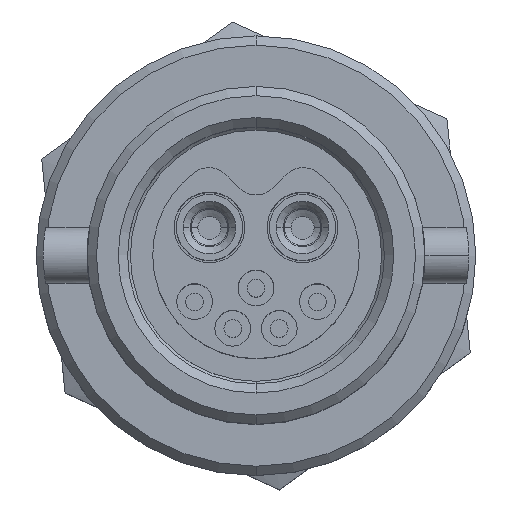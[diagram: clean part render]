
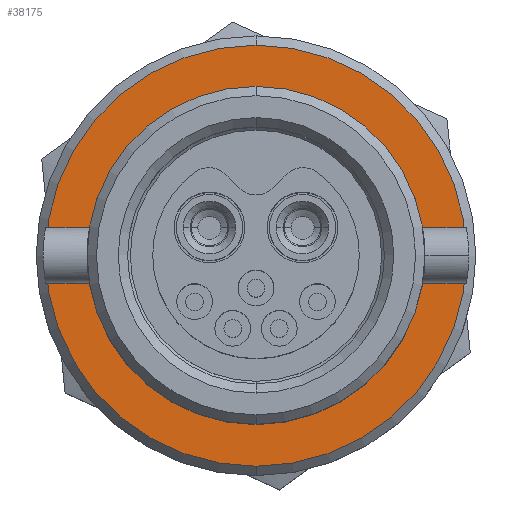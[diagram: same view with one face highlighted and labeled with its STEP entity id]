
A CAD part, top view. The second image highlights one B-rep face of the part: STEP entity #38175.
In plain terms, the highlighted planar face has unit normal (0, 0, 1).
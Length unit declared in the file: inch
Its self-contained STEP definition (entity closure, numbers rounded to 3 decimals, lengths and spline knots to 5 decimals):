
#984 = CIRCLE ( 'NONE', #4697, 0.22622 ) ;
#3842 = FACE_OUTER_BOUND ( 'NONE', #28770, .T. ) ;
#4621 = DIRECTION ( 'NONE',  ( 0., -1., 0. ) ) ;
#4697 = AXIS2_PLACEMENT_3D ( 'NONE', #15424, #36197, #4621 ) ;
#6770 = CARTESIAN_POINT ( 'NONE',  ( 0., -0.1815, 0.093 ) ) ;
#7353 = AXIS2_PLACEMENT_3D ( 'NONE', #13212, #28453, #41974 ) ;
#10416 = ORIENTED_EDGE ( 'NONE', *, *, #23283, .T. ) ;
#12629 = DIRECTION ( 'NONE',  ( 0., -1., 0. ) ) ;
#13212 = CARTESIAN_POINT ( 'NONE',  ( 0., 0., 0.093 ) ) ;
#15424 = CARTESIAN_POINT ( 'NONE',  ( 0., 0., 0.093 ) ) ;
#16680 = VERTEX_POINT ( 'NONE', #21586 ) ;
#17621 = DIRECTION ( 'NONE',  ( 0., -1., 0. ) ) ;
#17996 = CARTESIAN_POINT ( 'NONE',  ( 0., -0.22622, 0.093 ) ) ;
#19028 = DIRECTION ( 'NONE',  ( 0., 0., 1. ) ) ;
#20010 = CARTESIAN_POINT ( 'NONE',  ( 0., 0., 0.093 ) ) ;
#20883 = CIRCLE ( 'NONE', #7353, 0.1815 ) ;
#21586 = CARTESIAN_POINT ( 'NONE',  ( 0., 0.1815, 0.093 ) ) ;
#22800 = CARTESIAN_POINT ( 'NONE',  ( 0., 0., 0.093 ) ) ;
#23283 = EDGE_CURVE ( 'NONE', #24915, #37933, #984, .T. ) ;
#24409 = AXIS2_PLACEMENT_3D ( 'NONE', #22800, #19028, #12629 ) ;
#24915 = VERTEX_POINT ( 'NONE', #17996 ) ;
#25009 = PLANE ( 'NONE',  #32591 ) ;
#27808 = EDGE_CURVE ( 'NONE', #31720, #16680, #20883, .T. ) ;
#28453 = DIRECTION ( 'NONE',  ( 0., 0., 1. ) ) ;
#28770 = EDGE_LOOP ( 'NONE', ( #35931, #10416 ) ) ;
#28788 = ORIENTED_EDGE ( 'NONE', *, *, #40877, .F. ) ;
#29349 = CARTESIAN_POINT ( 'NONE',  ( 0., 0.22622, 0.093 ) ) ;
#31720 = VERTEX_POINT ( 'NONE', #6770 ) ;
#32591 = AXIS2_PLACEMENT_3D ( 'NONE', #45656, #42356, #17621 ) ;
#33896 = DIRECTION ( 'NONE',  ( 0., -1., 0. ) ) ;
#35931 = ORIENTED_EDGE ( 'NONE', *, *, #44286, .T. ) ;
#36197 = DIRECTION ( 'NONE',  ( 0., 0., 1. ) ) ;
#36550 = AXIS2_PLACEMENT_3D ( 'NONE', #20010, #44474, #33896 ) ;
#37933 = VERTEX_POINT ( 'NONE', #29349 ) ;
#38175 = ADVANCED_FACE ( 'NONE', ( #3842, #43134 ), #25009, .T. ) ;
#40877 = EDGE_CURVE ( 'NONE', #16680, #31720, #44698, .T. ) ;
#41974 = DIRECTION ( 'NONE',  ( 0., -1., 0. ) ) ;
#42356 = DIRECTION ( 'NONE',  ( 0., 0., 1. ) ) ;
#43134 = FACE_BOUND ( 'NONE', #43836, .T. ) ;
#43548 = ORIENTED_EDGE ( 'NONE', *, *, #27808, .F. ) ;
#43836 = EDGE_LOOP ( 'NONE', ( #43548, #28788 ) ) ;
#44286 = EDGE_CURVE ( 'NONE', #37933, #24915, #45515, .T. ) ;
#44474 = DIRECTION ( 'NONE',  ( 0., 0., 1. ) ) ;
#44698 = CIRCLE ( 'NONE', #24409, 0.1815 ) ;
#45515 = CIRCLE ( 'NONE', #36550, 0.22622 ) ;
#45656 = CARTESIAN_POINT ( 'NONE',  ( 0., 0., 0.093 ) ) ;
